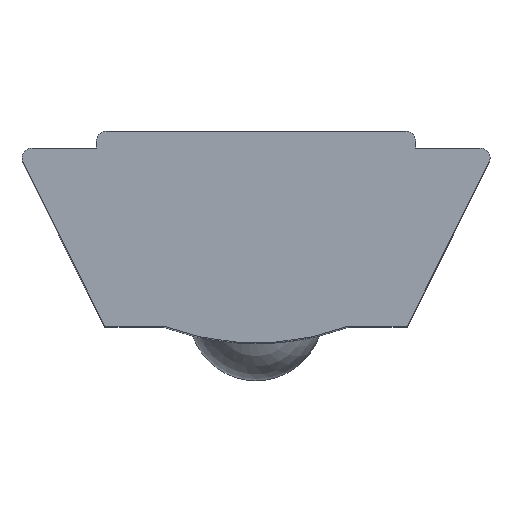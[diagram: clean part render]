
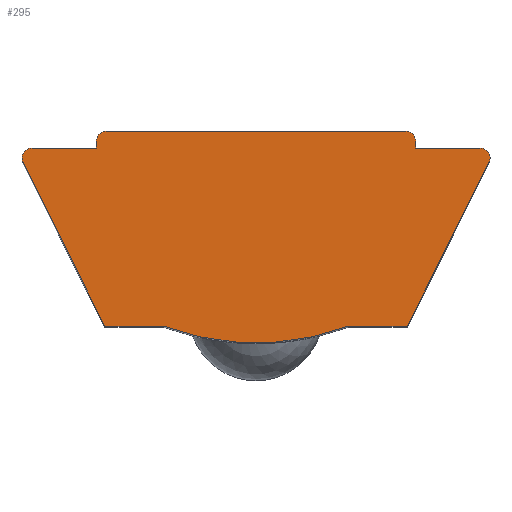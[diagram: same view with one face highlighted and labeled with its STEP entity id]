
A CAD part, top view. The second image highlights one B-rep face of the part: STEP entity #295.
In plain terms, the highlighted planar face has unit normal (0, 0, 1).
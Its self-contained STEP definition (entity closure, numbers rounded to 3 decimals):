
#8 = EDGE_CURVE ( 'NONE', #492, #676, #336, .T. ) ;
#19 = VERTEX_POINT ( 'NONE', #229 ) ;
#22 = VERTEX_POINT ( 'NONE', #460 ) ;
#57 = AXIS2_PLACEMENT_3D ( 'NONE', #253, #252, #243 ) ;
#74 = EDGE_CURVE ( 'NONE', #22, #414, #332, .T. ) ;
#84 = VECTOR ( 'NONE', #201, 1000. ) ;
#86 = CARTESIAN_POINT ( 'NONE',  ( 4.75, 5.8, 10. ) ) ;
#95 = AXIS2_PLACEMENT_3D ( 'NONE', #667, #657, #654 ) ;
#98 = DIRECTION ( 'NONE',  ( 1., 0., 0. ) ) ;
#100 = EDGE_CURVE ( 'NONE', #448, #492, #319, .T. ) ;
#101 = LINE ( 'NONE', #198, #84 ) ;
#109 = CARTESIAN_POINT ( 'NONE',  ( -4.45, 6., 10. ) ) ;
#127 = EDGE_CURVE ( 'NONE', #676, #22, #314, .T. ) ;
#128 = VECTOR ( 'NONE', #301, 1000. ) ;
#131 = EDGE_CURVE ( 'NONE', #658, #507, #306, .T. ) ;
#133 = VECTOR ( 'NONE', #338, 1000. ) ;
#134 = LINE ( 'NONE', #363, #133 ) ;
#144 = EDGE_CURVE ( 'NONE', #19, #713, #305, .T. ) ;
#145 = DIRECTION ( 'NONE',  ( 0., 0., 1. ) ) ;
#150 = LINE ( 'NONE', #86, #128 ) ;
#155 = VECTOR ( 'NONE', #389, 1000. ) ;
#157 = LINE ( 'NONE', #393, #155 ) ;
#158 = CIRCLE ( 'NONE', #57, 0.3 ) ;
#168 = VECTOR ( 'NONE', #461, 1000. ) ;
#172 = VECTOR ( 'NONE', #476, 1000. ) ;
#175 = LINE ( 'NONE', #580, #172 ) ;
#176 = LINE ( 'NONE', #475, #168 ) ;
#197 = CARTESIAN_POINT ( 'NONE',  ( -4.75, 5.8, 10. ) ) ;
#198 = CARTESIAN_POINT ( 'NONE',  ( 4.75, 6.3, 10. ) ) ;
#199 = CIRCLE ( 'NONE', #95, 7.813 ) ;
#201 = DIRECTION ( 'NONE',  ( 0., 1., 0. ) ) ;
#208 = DIRECTION ( 'NONE',  ( 1., 0., 0. ) ) ;
#229 = CARTESIAN_POINT ( 'NONE',  ( 6.933, 5.366, 10. ) ) ;
#237 = FACE_OUTER_BOUND ( 'NONE', #387, .T. ) ;
#243 = DIRECTION ( 'NONE',  ( 1., 0., 0. ) ) ;
#252 = DIRECTION ( 'NONE',  ( 0., 0., 1. ) ) ;
#253 = CARTESIAN_POINT ( 'NONE',  ( -6.665, 5.5, 10. ) ) ;
#260 = LINE ( 'NONE', #673, #261 ) ;
#261 = VECTOR ( 'NONE', #648, 1000. ) ;
#266 = AXIS2_PLACEMENT_3D ( 'NONE', #559, #567, #541 ) ;
#272 = CARTESIAN_POINT ( 'NONE',  ( 4.45, 6., 10. ) ) ;
#279 = DIRECTION ( 'NONE',  ( 0., 0., 1. ) ) ;
#281 = EDGE_CURVE ( 'NONE', #362, #614, #260, .T. ) ;
#295 = ADVANCED_FACE ( 'NONE', ( #237 ), #644, .T. ) ;
#301 = DIRECTION ( 'NONE',  ( -1., 0., 0. ) ) ;
#305 = CIRCLE ( 'NONE', #488, 0.3 ) ;
#306 = CIRCLE ( 'NONE', #501, 0.3 ) ;
#310 = CARTESIAN_POINT ( 'NONE',  ( -6.933, 5.366, 10. ) ) ;
#314 = CIRCLE ( 'NONE', #516, 0.3 ) ;
#315 = CARTESIAN_POINT ( 'NONE',  ( 6.665, 5.8, 10. ) ) ;
#319 = CIRCLE ( 'NONE', #536, 0.3 ) ;
#320 = VECTOR ( 'NONE', #677, 1000. ) ;
#332 = LINE ( 'NONE', #778, #320 ) ;
#334 = VECTOR ( 'NONE', #757, 1000. ) ;
#336 = LINE ( 'NONE', #382, #334 ) ;
#338 = DIRECTION ( 'NONE',  ( 0.447, 0.894, 0. ) ) ;
#341 = VERTEX_POINT ( 'NONE', #459 ) ;
#362 = VERTEX_POINT ( 'NONE', #462 ) ;
#363 = CARTESIAN_POINT ( 'NONE',  ( 7.15, 5.8, 10. ) ) ;
#378 = CARTESIAN_POINT ( 'NONE',  ( -4.45, 6.3, 10. ) ) ;
#382 = CARTESIAN_POINT ( 'NONE',  ( -4.75, 6.3, 10. ) ) ;
#387 = EDGE_LOOP ( 'NONE', ( #490, #491, #496, #495, #508, #505, #511, #493, #519, #539, #533, #522, #520, #528, #558 ) ) ;
#389 = DIRECTION ( 'NONE',  ( 1., 0., 0. ) ) ;
#393 = CARTESIAN_POINT ( 'NONE',  ( -4.5, 0.5, 10. ) ) ;
#414 = VERTEX_POINT ( 'NONE', #197 ) ;
#415 = CARTESIAN_POINT ( 'NONE',  ( -6.665, 5.8, 10. ) ) ;
#448 = VERTEX_POINT ( 'NONE', #828 ) ;
#459 = CARTESIAN_POINT ( 'NONE',  ( 4.75, 5.8, 10. ) ) ;
#460 = CARTESIAN_POINT ( 'NONE',  ( -4.75, 6., 10. ) ) ;
#461 = DIRECTION ( 'NONE',  ( 0.447, -0.894, 0. ) ) ;
#462 = CARTESIAN_POINT ( 'NONE',  ( 2.75, 0.5, 10. ) ) ;
#465 = CARTESIAN_POINT ( 'NONE',  ( -2.75, 0.5, 10. ) ) ;
#475 = CARTESIAN_POINT ( 'NONE',  ( -7.15, 5.8, 10. ) ) ;
#476 = DIRECTION ( 'NONE',  ( -1., 0., 0. ) ) ;
#487 = CARTESIAN_POINT ( 'NONE',  ( 4.5, 0.5, 10. ) ) ;
#488 = AXIS2_PLACEMENT_3D ( 'NONE', #626, #552, #538 ) ;
#490 = ORIENTED_EDGE ( 'NONE', *, *, #772, .T. ) ;
#491 = ORIENTED_EDGE ( 'NONE', *, *, #100, .T. ) ;
#492 = VERTEX_POINT ( 'NONE', #825 ) ;
#493 = ORIENTED_EDGE ( 'NONE', *, *, #733, .T. ) ;
#495 = ORIENTED_EDGE ( 'NONE', *, *, #127, .T. ) ;
#496 = ORIENTED_EDGE ( 'NONE', *, *, #8, .T. ) ;
#501 = AXIS2_PLACEMENT_3D ( 'NONE', #665, #661, #656 ) ;
#505 = ORIENTED_EDGE ( 'NONE', *, *, #617, .T. ) ;
#507 = VERTEX_POINT ( 'NONE', #824 ) ;
#508 = ORIENTED_EDGE ( 'NONE', *, *, #74, .T. ) ;
#511 = ORIENTED_EDGE ( 'NONE', *, *, #131, .T. ) ;
#516 = AXIS2_PLACEMENT_3D ( 'NONE', #109, #145, #98 ) ;
#519 = ORIENTED_EDGE ( 'NONE', *, *, #634, .T. ) ;
#520 = ORIENTED_EDGE ( 'NONE', *, *, #711, .T. ) ;
#522 = ORIENTED_EDGE ( 'NONE', *, *, #281, .T. ) ;
#528 = ORIENTED_EDGE ( 'NONE', *, *, #144, .T. ) ;
#533 = ORIENTED_EDGE ( 'NONE', *, *, #571, .T. ) ;
#536 = AXIS2_PLACEMENT_3D ( 'NONE', #272, #279, #208 ) ;
#538 = DIRECTION ( 'NONE',  ( 1., 0., 0. ) ) ;
#539 = ORIENTED_EDGE ( 'NONE', *, *, #664, .T. ) ;
#541 = DIRECTION ( 'NONE',  ( 1., 0., 0. ) ) ;
#544 = VERTEX_POINT ( 'NONE', #827 ) ;
#552 = DIRECTION ( 'NONE',  ( 0., 0., 1. ) ) ;
#558 = ORIENTED_EDGE ( 'NONE', *, *, #720, .T. ) ;
#559 = CARTESIAN_POINT ( 'NONE',  ( 0., 7.813, 10. ) ) ;
#567 = DIRECTION ( 'NONE',  ( 0., 0., 1. ) ) ;
#571 = EDGE_CURVE ( 'NONE', #635, #362, #199, .T. ) ;
#580 = CARTESIAN_POINT ( 'NONE',  ( -4.75, 5.8, 10. ) ) ;
#614 = VERTEX_POINT ( 'NONE', #487 ) ;
#617 = EDGE_CURVE ( 'NONE', #414, #658, #175, .T. ) ;
#626 = CARTESIAN_POINT ( 'NONE',  ( 6.665, 5.5, 10. ) ) ;
#634 = EDGE_CURVE ( 'NONE', #722, #544, #176, .T. ) ;
#635 = VERTEX_POINT ( 'NONE', #465 ) ;
#644 = PLANE ( 'NONE',  #266 ) ;
#648 = DIRECTION ( 'NONE',  ( 1., 0., 0. ) ) ;
#654 = DIRECTION ( 'NONE',  ( 1., 0., 0. ) ) ;
#656 = DIRECTION ( 'NONE',  ( 1., 0., 0. ) ) ;
#657 = DIRECTION ( 'NONE',  ( 0., 0., 1. ) ) ;
#658 = VERTEX_POINT ( 'NONE', #415 ) ;
#661 = DIRECTION ( 'NONE',  ( 0., 0., 1. ) ) ;
#664 = EDGE_CURVE ( 'NONE', #544, #635, #157, .T. ) ;
#665 = CARTESIAN_POINT ( 'NONE',  ( -6.665, 5.5, 10. ) ) ;
#667 = CARTESIAN_POINT ( 'NONE',  ( 0., 7.813, 10. ) ) ;
#673 = CARTESIAN_POINT ( 'NONE',  ( 4.5, 0.5, 10. ) ) ;
#676 = VERTEX_POINT ( 'NONE', #378 ) ;
#677 = DIRECTION ( 'NONE',  ( 0., -1., 0. ) ) ;
#711 = EDGE_CURVE ( 'NONE', #614, #19, #134, .T. ) ;
#713 = VERTEX_POINT ( 'NONE', #315 ) ;
#720 = EDGE_CURVE ( 'NONE', #713, #341, #150, .T. ) ;
#722 = VERTEX_POINT ( 'NONE', #310 ) ;
#733 = EDGE_CURVE ( 'NONE', #507, #722, #158, .T. ) ;
#757 = DIRECTION ( 'NONE',  ( -1., 0., 0. ) ) ;
#772 = EDGE_CURVE ( 'NONE', #341, #448, #101, .T. ) ;
#778 = CARTESIAN_POINT ( 'NONE',  ( -4.75, 6.3, 10. ) ) ;
#824 = CARTESIAN_POINT ( 'NONE',  ( -6.965, 5.5, 10. ) ) ;
#825 = CARTESIAN_POINT ( 'NONE',  ( 4.45, 6.3, 10. ) ) ;
#827 = CARTESIAN_POINT ( 'NONE',  ( -4.5, 0.5, 10. ) ) ;
#828 = CARTESIAN_POINT ( 'NONE',  ( 4.75, 6., 10. ) ) ;
